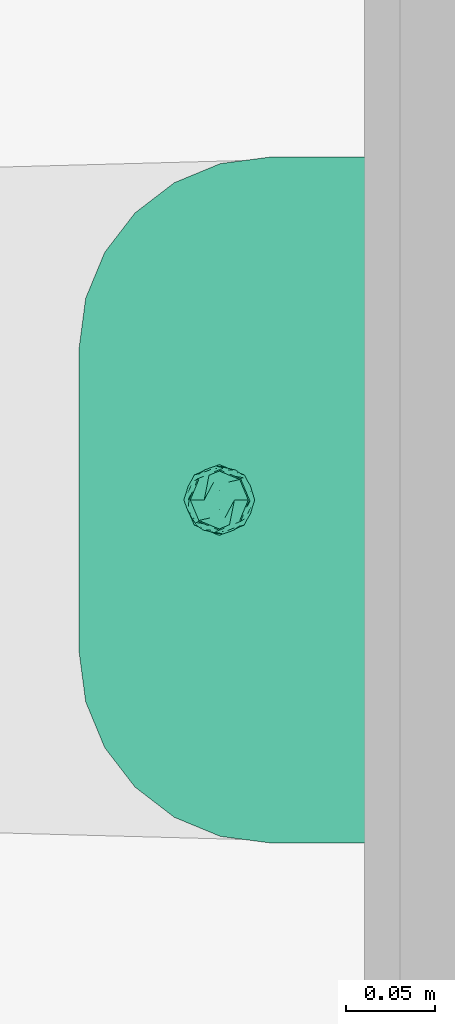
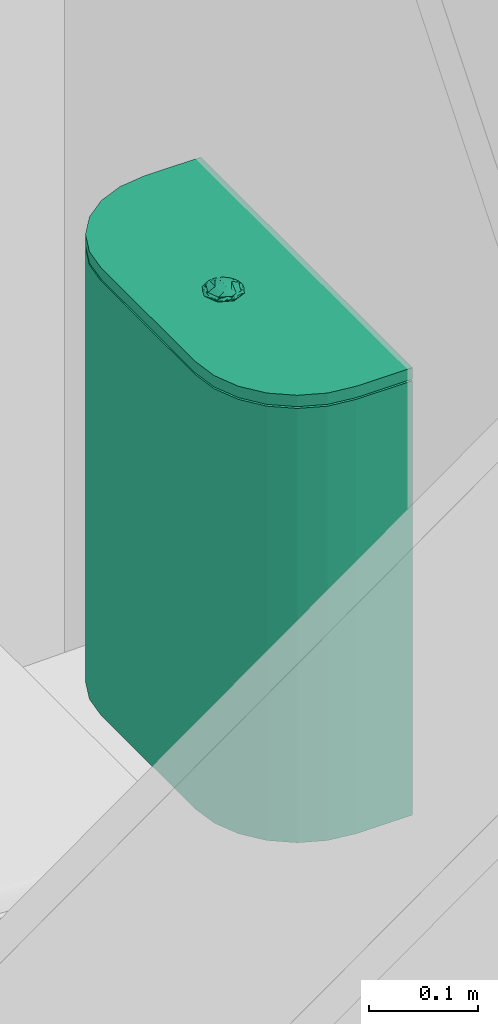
# One storey, part 68 of 75: 1 flow terminal.
"""IFC2X3 building model written with IfcOpenShell, lengths in metres."""

from ifc_helpers import new_model, entity, si_unit, converted_unit, derived_unit, direction, frame, origin, place, context, subcontext, project, spatial, faceted_brep, source, transform, mapped, material, material_list, type_object, type_shapes, element, save


model = new_model("IFC2X3")

# Units and contexts
model_context = context("Model", 3, precision=1e-05, world=origin(), true_north=direction((6.12303176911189e-17, 1.0)))
body_context = subcontext(model_context, "Body", "Model", "MODEL_VIEW")
ifc_project = project(units=[si_unit("LENGTHUNIT", "METRE"), si_unit("AREAUNIT", "SQUARE_METRE"), si_unit("VOLUMEUNIT", "CUBIC_METRE"), converted_unit("PLANEANGLEUNIT", "DEGREE", entity("IfcRatioMeasure", 0.0174532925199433), si_unit("PLANEANGLEUNIT", "RADIAN"), dimensions=[0, 0, 0, 0, 0, 0, 0]), si_unit("MASSUNIT", "GRAM", prefix="KILO"), derived_unit("MASSDENSITYUNIT", [(si_unit("MASSUNIT", "GRAM", prefix="KILO"), 1), (si_unit("LENGTHUNIT", "METRE"), -3)]), derived_unit("MOMENTOFINERTIAUNIT", [(si_unit("LENGTHUNIT", "METRE"), 4)]), si_unit("TIMEUNIT", "SECOND"), si_unit("FREQUENCYUNIT", "HERTZ"), si_unit("THERMODYNAMICTEMPERATUREUNIT", "DEGREE_CELSIUS"), derived_unit("THERMALTRANSMITTANCEUNIT", [(si_unit("MASSUNIT", "GRAM", prefix="KILO"), 1), (si_unit("THERMODYNAMICTEMPERATUREUNIT", "KELVIN"), -1), (si_unit("TIMEUNIT", "SECOND"), -3)]), derived_unit("VOLUMETRICFLOWRATEUNIT", [(si_unit("LENGTHUNIT", "METRE"), 3), (si_unit("TIMEUNIT", "SECOND"), -1)]), si_unit("ELECTRICCURRENTUNIT", "AMPERE"), si_unit("ELECTRICVOLTAGEUNIT", "VOLT"), si_unit("POWERUNIT", "WATT"), si_unit("FORCEUNIT", "NEWTON", prefix="KILO"), si_unit("ILLUMINANCEUNIT", "LUX"), si_unit("LUMINOUSFLUXUNIT", "LUMEN"), si_unit("LUMINOUSINTENSITYUNIT", "CANDELA"), derived_unit("USERDEFINED", [(si_unit("MASSUNIT", "GRAM", prefix="KILO"), -1), (si_unit("LENGTHUNIT", "METRE"), -2), (si_unit("TIMEUNIT", "SECOND"), 3), (si_unit("LUMINOUSFLUXUNIT", "LUMEN"), 1)]), derived_unit("LINEARVELOCITYUNIT", [(si_unit("LENGTHUNIT", "METRE"), 1), (si_unit("TIMEUNIT", "SECOND"), -1)]), si_unit("PRESSUREUNIT", "PASCAL"), derived_unit("USERDEFINED", [(si_unit("LENGTHUNIT", "METRE"), -2), (si_unit("MASSUNIT", "GRAM", prefix="KILO"), 1), (si_unit("TIMEUNIT", "SECOND"), -2)]), derived_unit("LINEARFORCEUNIT", [(si_unit("MASSUNIT", "GRAM", prefix="KILO"), 1), (si_unit("LENGTHUNIT", "METRE"), 1), (si_unit("TIMEUNIT", "SECOND"), -2), (si_unit("LENGTHUNIT", "METRE"), -1)]), derived_unit("PLANARFORCEUNIT", [(si_unit("MASSUNIT", "GRAM", prefix="KILO"), 1), (si_unit("LENGTHUNIT", "METRE"), 1), (si_unit("TIMEUNIT", "SECOND"), -2), (si_unit("LENGTHUNIT", "METRE"), -2)])], contexts=[model_context])

# Site, building, storey
site_placement = place(None, origin())
site = spatial("IfcSite", under=ifc_project, at=site_placement, Name="Superficie", CompositionType="ELEMENT")
building_placement = place(site_placement, origin())
building = spatial("IfcBuilding", under=site, at=building_placement, Name="Telegestiones", CompositionType="ELEMENT")
storey_placement = place(building_placement, origin())
storey = spatial("IfcBuildingStorey", under=building, at=storey_placement, Name="Nivel 0_NPT", CompositionType="ELEMENT", Elevation=0.0)

# Flow terminal
ifc_material_1 = material(Name="Metal - Ferrum - Cromado")
ifc_material_2 = material(Name="Ceramica - Ferrum - Blanco Satinado")
ifc_material_list_1 = material_list([ifc_material_1, ifc_material_2])
ifc_material_list_2 = material_list([ifc_material_2, ifc_material_1])
distribution_element_type = type_object("IfcDistributionElementType", Name="Inodoro-Ferrum-Marina-Deposito:Deposito", material=ifc_material_list_2)
shared_shape = source(origin(), body_context, "Body", "Brep", [
    faceted_brep([(0.0, -0.0879347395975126, 0.501461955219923), (0.0, -0.0708831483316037, 0.501461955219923), (-0.00479660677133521, -0.0728699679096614, 0.501461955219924), (-0.00842695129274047, -0.0743737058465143, 0.501461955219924), (-0.0120572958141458, -0.0758774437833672, 0.501461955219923), (-0.0133058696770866, -0.0788917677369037, 0.501461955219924), (-0.0145544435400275, -0.0819060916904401, 0.501461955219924), (-0.0158030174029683, -0.0849204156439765, 0.501461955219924), (-0.0170515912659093, -0.087934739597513, 0.501461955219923), (-0.0158030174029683, -0.0909490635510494, 0.501461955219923), (-0.0145544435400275, -0.0939633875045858, 0.501461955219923), (-0.0133058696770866, -0.0969777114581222, 0.501461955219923), (-0.0120572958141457, -0.0999920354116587, 0.501461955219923), (-0.00842695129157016, -0.101495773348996, 0.501461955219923), (-0.00479660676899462, -0.102999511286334, 0.501461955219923), (0.0, -0.104986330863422, 0.501461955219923), (0.0047966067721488, -0.102999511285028, 0.501461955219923), (0.00479660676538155, -0.0728699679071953, 0.501461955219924), (0.00842695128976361, -0.0743737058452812, 0.501461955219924), (0.0120572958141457, -0.0758774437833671, 0.501461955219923), (0.0133058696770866, -0.0788917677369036, 0.501461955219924), (0.0145544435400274, -0.08190609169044, 0.501461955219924), (0.0158030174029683, -0.0849204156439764, 0.501461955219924), (0.0170515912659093, -0.0879347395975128, 0.501461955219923), (0.00842695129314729, -0.101495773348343, 0.501461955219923), (0.0120572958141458, -0.0999920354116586, 0.501461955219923), (0.0133058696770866, -0.0969777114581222, 0.501461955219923), (0.0145544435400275, -0.0939633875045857, 0.501461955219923), (0.0158030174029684, -0.0909490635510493, 0.501461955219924), (0.0, -0.0879347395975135, 0.499004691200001), (-0.0141421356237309, -0.0737926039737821, 0.499004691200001), (-0.00988406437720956, -0.0720288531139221, 0.499004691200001), (-0.00562599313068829, -0.070265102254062, 0.499004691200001), (0.0, -0.067934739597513, 0.499004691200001), (0.00562599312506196, -0.0702651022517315, 0.499004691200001), (-0.0156066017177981, -0.0773281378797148, 0.499004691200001), (-0.0170710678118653, -0.0808636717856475, 0.499004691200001), (-0.0185355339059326, -0.0843992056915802, 0.499004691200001), (-0.0199999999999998, -0.0879347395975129, 0.499004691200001), (-0.0185355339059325, -0.0914702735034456, 0.499004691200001), (-0.0170710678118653, -0.0950058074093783, 0.499004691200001), (-0.015606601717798, -0.098541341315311, 0.499004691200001), (-0.0141421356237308, -0.102076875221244, 0.499004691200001), (-0.00988406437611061, -0.103840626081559, 0.499004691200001), (-0.00562599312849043, -0.105604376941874, 0.499004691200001), (0.0, -0.107934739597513, 0.499004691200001), (0.00988406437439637, -0.0720288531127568, 0.499004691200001), (0.0141421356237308, -0.073792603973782, 0.499004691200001), (0.015606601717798, -0.0773281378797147, 0.499004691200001), (0.0170710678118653, -0.0808636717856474, 0.499004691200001), (0.0185355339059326, -0.0843992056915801, 0.499004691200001), (0.0199999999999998, -0.0879347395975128, 0.499004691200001), (0.0185355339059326, -0.0914702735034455, 0.499004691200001), (0.00562599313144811, -0.105604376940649, 0.499004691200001), (0.0098840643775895, -0.103840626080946, 0.499004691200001), (0.0141421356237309, -0.102076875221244, 0.499004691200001), (0.0170710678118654, -0.0950058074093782, 0.499004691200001), (0.0156066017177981, -0.0985413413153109, 0.499004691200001), (-0.0106825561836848, -0.102196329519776, 0.500884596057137), (-0.013204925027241, -0.0999578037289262, 0.500853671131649), (-0.0124759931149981, -0.101684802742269, 0.500282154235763), (-0.0157937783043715, -0.0963766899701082, 0.500814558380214), (-0.0148252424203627, -0.0991118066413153, 0.50028215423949), (-0.00401935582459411, -0.0691551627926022, 0.499734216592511), (-0.00968739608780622, -0.10377358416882, 0.500282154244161), (-0.00437721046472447, -0.10555508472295, 0.500618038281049), (-0.00752313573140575, -0.104092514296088, 0.5008810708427), (0.0, -0.105664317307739, 0.500933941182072), (-0.0172182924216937, -0.095648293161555, 0.500028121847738), (0.0, -0.106501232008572, 0.500282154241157), (-0.017062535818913, -0.0930831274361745, 0.500881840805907), (-0.0177493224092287, -0.0896123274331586, 0.500877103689), (-0.0153450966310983, -0.0776814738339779, 0.500374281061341), (-0.0170166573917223, -0.0807405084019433, 0.500358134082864), (-0.00496458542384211, -0.0703027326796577, 0.500487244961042), (-0.00805501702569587, -0.0704028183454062, 0.499655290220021), (-0.00968739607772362, -0.0720958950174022, 0.500282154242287), (-0.00372687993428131, -0.106716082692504, 0.49978476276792), (0.0, -0.0702051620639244, 0.500933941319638), (0.0, -0.0693682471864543, 0.500282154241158), (-0.0111886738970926, -0.072216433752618, 0.499655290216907), (-0.0119381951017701, -0.103091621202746, 0.499655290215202), (-0.00762284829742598, -0.105588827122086, 0.499712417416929), (-0.0181504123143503, -0.0840261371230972, 0.500282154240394), (-0.018565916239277, -0.0877884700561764, 0.50028215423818), (-0.0177055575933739, -0.0861570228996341, 0.500903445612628), (-0.0182097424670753, -0.091556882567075, 0.500282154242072), (-0.0192009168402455, -0.089825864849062, 0.499655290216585), (-0.0170346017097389, -0.082767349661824, 0.500898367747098), (-0.0126874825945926, -0.0746691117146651, 0.50045576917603), (-0.0169081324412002, -0.0787166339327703, 0.499687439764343), (-0.0145243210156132, -0.0753984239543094, 0.499750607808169), (0.0106825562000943, -0.0736731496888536, 0.500884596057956), (0.0132049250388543, -0.075911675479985, 0.500853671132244), (0.0124759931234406, -0.0741846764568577, 0.500282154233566), (0.0157937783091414, -0.0794927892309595, 0.500814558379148), (0.0148252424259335, -0.0767576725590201, 0.500282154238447), (0.00509887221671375, -0.106043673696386, 0.50007430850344), (0.00968739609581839, -0.0720958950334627, 0.500282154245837), (0.00437721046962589, -0.0703143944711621, 0.500618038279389), (0.00752313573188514, -0.0717769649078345, 0.500881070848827), (0.0172182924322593, -0.0802211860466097, 0.50002812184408), (0.00968739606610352, -0.103773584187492, 0.500282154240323), (0.012687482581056, -0.101200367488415, 0.50045576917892), (0.0103332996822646, -0.102451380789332, 0.500884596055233), (0.0170625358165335, -0.0827863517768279, 0.500881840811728), (0.0177493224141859, -0.0862571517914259, 0.500877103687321), (0.0170166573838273, -0.0951289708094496, 0.500358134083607), (0.018150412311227, -0.0918433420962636, 0.500282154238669), (0.0170346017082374, -0.0931021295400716, 0.500898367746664), (0.014524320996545, -0.100471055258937, 0.4997506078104), (0.00743921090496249, -0.104126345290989, 0.500884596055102), (0.00372687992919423, -0.0691533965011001, 0.499784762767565), (0.0037488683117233, -0.105450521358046, 0.500811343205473), (0.0119381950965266, -0.0727778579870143, 0.499655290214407), (0.00762284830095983, -0.0702806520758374, 0.499712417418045), (0.0185659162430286, -0.0880810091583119, 0.500282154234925), (0.0177055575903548, -0.0897124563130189, 0.500903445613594), (0.0182097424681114, -0.0843125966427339, 0.500282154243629), (0.0192009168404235, -0.0860436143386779, 0.499655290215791), (0.0153450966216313, -0.0981880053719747, 0.500374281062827), (0.0169081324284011, -0.0971528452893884, 0.499687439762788)], [[[0, 1, 2]], [[0, 2, 3]], [[0, 3, 4]], [[0, 4, 5]], [[0, 5, 6]], [[0, 6, 7]], [[0, 7, 8]], [[0, 8, 9]], [[0, 9, 10]], [[0, 10, 11]], [[0, 11, 12]], [[0, 12, 13]], [[0, 13, 14]], [[0, 14, 15]], [[0, 15, 16]], [[0, 17, 1]], [[0, 18, 17]], [[0, 19, 18]], [[0, 20, 19]], [[0, 21, 20]], [[0, 22, 21]], [[0, 23, 22]], [[0, 16, 24]], [[0, 24, 25]], [[0, 25, 26]], [[0, 26, 27]], [[0, 27, 28]], [[0, 28, 23]], [[29, 30, 31]], [[29, 31, 32]], [[29, 32, 33]], [[29, 33, 34]], [[29, 35, 30]], [[29, 36, 35]], [[29, 37, 36]], [[29, 38, 37]], [[29, 39, 38]], [[29, 40, 39]], [[29, 41, 40]], [[29, 42, 41]], [[29, 43, 42]], [[29, 44, 43]], [[29, 45, 44]], [[29, 34, 46]], [[29, 46, 47]], [[29, 47, 48]], [[29, 48, 49]], [[29, 49, 50]], [[29, 50, 51]], [[29, 51, 52]], [[29, 53, 45]], [[29, 54, 53]], [[29, 55, 54]], [[29, 52, 56]], [[29, 56, 57]], [[29, 57, 55]], [[58, 59, 60]], [[59, 11, 61]], [[61, 62, 59]], [[33, 32, 63]], [[64, 65, 66]], [[15, 14, 67]], [[62, 68, 41]], [[69, 67, 65]], [[70, 9, 71]], [[68, 62, 61]], [[6, 72, 73]], [[74, 75, 76]], [[32, 75, 63]], [[31, 75, 32]], [[69, 65, 77]], [[74, 1, 78, 79]], [[74, 76, 3]], [[80, 76, 75]], [[81, 82, 64]], [[83, 37, 84]], [[71, 85, 84]], [[45, 69, 77]], [[68, 39, 40, 41]], [[68, 86, 87]], [[85, 7, 88]], [[88, 73, 83]], [[31, 80, 75]], [[89, 72, 5]], [[37, 38, 87]], [[36, 83, 90]], [[65, 67, 14]], [[13, 12, 58]], [[77, 82, 44]], [[82, 65, 64]], [[45, 77, 44]], [[65, 82, 77]], [[82, 81, 43]], [[43, 81, 42]], [[43, 44, 82]], [[60, 81, 64]], [[58, 64, 66]], [[62, 81, 60]], [[66, 14, 13]], [[60, 64, 58]], [[59, 58, 12]], [[14, 66, 65]], [[13, 58, 66]], [[59, 12, 11]], [[60, 59, 62]], [[11, 10, 61]], [[86, 70, 71]], [[61, 70, 68]], [[87, 38, 39]], [[42, 81, 62]], [[68, 87, 39]], [[42, 62, 41]], [[84, 87, 86]], [[71, 84, 86]], [[83, 36, 37]], [[73, 88, 6]], [[6, 88, 7]], [[85, 83, 84]], [[68, 70, 86]], [[8, 7, 85]], [[61, 10, 70]], [[9, 8, 71]], [[85, 88, 83]], [[8, 85, 71]], [[70, 10, 9]], [[73, 72, 90]], [[91, 90, 72]], [[91, 35, 90]], [[89, 91, 72]], [[76, 80, 89]], [[72, 6, 5]], [[87, 84, 37]], [[35, 91, 30]], [[91, 80, 30]], [[35, 36, 90]], [[75, 74, 63]], [[89, 3, 76]], [[1, 74, 3, 2]], [[74, 79, 63]], [[33, 63, 79]], [[30, 80, 31]], [[89, 80, 91]], [[3, 89, 4]], [[83, 73, 90]], [[4, 89, 5]], [[92, 93, 94]], [[93, 20, 95]], [[95, 96, 93]], [[45, 53, 54, 97]], [[98, 99, 100]], [[1, 17, 78]], [[96, 101, 48]], [[102, 103, 104]], [[105, 22, 106]], [[101, 96, 95]], [[107, 108, 109]], [[102, 54, 110]], [[104, 111, 102]], [[102, 111, 97]], [[79, 99, 112]], [[113, 15, 67, 69]], [[25, 24, 104]], [[79, 78, 99]], [[114, 115, 98]], [[116, 108, 52]], [[106, 117, 116]], [[33, 79, 112]], [[101, 50, 49, 48]], [[101, 118, 119]], [[117, 28, 109]], [[120, 27, 26]], [[110, 103, 102]], [[27, 120, 107]], [[52, 51, 119]], [[56, 108, 121]], [[99, 78, 17]], [[18, 19, 92]], [[112, 115, 34]], [[115, 99, 98]], [[33, 112, 34]], [[99, 115, 112]], [[115, 114, 46]], [[46, 114, 47]], [[46, 34, 115]], [[94, 114, 98]], [[92, 98, 100]], [[96, 114, 94]], [[100, 17, 18]], [[94, 98, 92]], [[93, 92, 19]], [[17, 100, 99]], [[18, 92, 100]], [[93, 19, 20]], [[94, 93, 96]], [[20, 21, 95]], [[118, 105, 106]], [[95, 105, 101]], [[119, 51, 50]], [[47, 114, 96]], [[101, 119, 50]], [[47, 96, 48]], [[116, 119, 118]], [[106, 116, 118]], [[108, 56, 52]], [[107, 109, 27]], [[27, 109, 28]], [[117, 108, 116]], [[101, 105, 118]], [[23, 28, 117]], [[95, 21, 105]], [[22, 23, 106]], [[117, 109, 108]], [[23, 117, 106]], [[105, 21, 22]], [[103, 26, 25]], [[107, 120, 121]], [[110, 121, 120]], [[110, 57, 121]], [[103, 110, 120]], [[97, 54, 102]], [[103, 120, 26]], [[24, 111, 104]], [[97, 111, 113]], [[111, 24, 16]], [[16, 113, 111]], [[45, 97, 69]], [[119, 116, 52]], [[15, 113, 16]], [[69, 97, 113]], [[57, 110, 55]], [[57, 56, 121]], [[25, 104, 103]], [[55, 110, 54]], [[108, 107, 121]]]),
    faceted_brep([(0.0, -0.0879347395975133, 0.501961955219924), (-0.0115552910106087, -0.0763794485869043, 0.501961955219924), (-0.00652729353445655, -0.0742967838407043, 0.501961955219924), (-0.0032636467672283, -0.0729449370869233, 0.501961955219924), (0.0, -0.0715930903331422, 0.501961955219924), (0.00652729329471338, -0.0742967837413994, 0.501961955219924), (-0.0139484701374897, -0.0821570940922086, 0.501961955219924), (-0.0163416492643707, -0.087934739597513, 0.501961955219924), (-0.0139484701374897, -0.0937123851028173, 0.501961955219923), (-0.0115552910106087, -0.0994900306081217, 0.501961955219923), (-0.00652729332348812, -0.101572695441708, 0.501961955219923), (0.0, -0.104276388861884, 0.501961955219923), (0.0115552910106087, -0.0763794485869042, 0.501961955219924), (0.0139484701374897, -0.0821570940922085, 0.501961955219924), (0.0163416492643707, -0.0879347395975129, 0.501961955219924), (0.0139484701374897, -0.0937123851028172, 0.501961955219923), (0.00326364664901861, -0.102924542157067, 0.501961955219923), (0.00652729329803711, -0.10157269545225, 0.501961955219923), (0.0115552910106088, -0.0994900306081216, 0.501961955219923), (0.0, -0.0964857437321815, 0.505715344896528), (0.0, -0.0922102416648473, 0.506360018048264), (-0.0100644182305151, -0.0911023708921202, 0.505017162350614), (-0.00557978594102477, -0.0879347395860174, 0.506462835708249), (-0.0101494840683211, -0.0826250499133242, 0.504646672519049), (0.0, -0.102536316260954, 0.502800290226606), (0.0, -0.100796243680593, 0.503638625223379), (0.0, -0.0986409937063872, 0.504676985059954), (0.0, -0.0836592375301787, 0.506360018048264), (0.0, -0.0793837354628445, 0.505715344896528), (0.0, -0.0772284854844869, 0.504676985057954), (0.0, -0.0750732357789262, 0.503638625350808), (0.0, -0.0733331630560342, 0.502800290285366), (0.0, -0.087934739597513, 0.5070046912), (0.01006441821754, -0.0847671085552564, 0.50501716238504), (0.00557978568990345, -0.0879347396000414, 0.506462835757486), (0.0101494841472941, -0.0932444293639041, 0.504646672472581)], [[[0, 1, 2]], [[0, 2, 3]], [[0, 3, 4]], [[0, 4, 5]], [[0, 6, 1]], [[0, 7, 6]], [[0, 8, 7]], [[0, 9, 8]], [[0, 10, 9]], [[0, 11, 10]], [[0, 5, 12]], [[0, 12, 13]], [[0, 13, 14]], [[0, 14, 15]], [[0, 16, 11]], [[0, 17, 16]], [[0, 18, 17]], [[0, 15, 18]], [[19, 20, 21]], [[19, 8, 9]], [[22, 23, 21]], [[10, 11, 24, 25, 26, 19, 9]], [[21, 8, 19]], [[27, 28, 23]], [[23, 1, 6, 7]], [[1, 23, 28]], [[23, 7, 21]], [[3, 2, 1, 28, 29, 30, 31, 4]], [[27, 22, 32]], [[7, 8, 21]], [[20, 32, 22]], [[23, 22, 27]], [[21, 20, 22]], [[28, 27, 33]], [[28, 13, 12]], [[34, 35, 33]], [[5, 4, 31, 30, 29, 28, 12]], [[33, 13, 28]], [[20, 19, 35]], [[35, 18, 15, 14]], [[18, 35, 19]], [[35, 14, 33]], [[24, 11, 16, 17, 18, 19, 26, 25]], [[20, 34, 32]], [[14, 13, 33]], [[27, 32, 34]], [[35, 34, 20]], [[33, 27, 34]]]),
    faceted_brep([(0.1935, -0.059548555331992, 0.4863750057), (0.189838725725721, -0.0873586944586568, 0.4863750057), (0.179104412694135, -0.113273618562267, 0.4863750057), (0.162028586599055, -0.135527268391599, 0.4863750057), (0.139774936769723, -0.152603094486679, 0.486375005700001), (0.113860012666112, -0.163337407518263, 0.486375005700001), (0.0860498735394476, -0.166998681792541, 0.486375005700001), (-0.0860498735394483, -0.166998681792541, 0.486375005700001), (-0.113860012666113, -0.163337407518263, 0.486375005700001), (-0.139774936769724, -0.152603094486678, 0.486375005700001), (-0.162028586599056, -0.135527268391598, 0.4863750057), (-0.179104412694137, -0.113273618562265, 0.4863750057), (-0.189838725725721, -0.0873586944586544, 0.4863750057), (-0.1935, -0.0595485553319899, 0.4863750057), (-0.1935, 0.0, 0.4863750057), (0.1935, 0.0, 0.4863750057), (-0.1935, -0.0595485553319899, 0.499004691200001), (-0.189838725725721, -0.0873586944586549, 0.499004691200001), (-0.179104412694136, -0.113273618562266, 0.499004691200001), (-0.162028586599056, -0.135527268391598, 0.499004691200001), (-0.139774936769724, -0.152603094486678, 0.499004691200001), (-0.113860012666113, -0.163337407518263, 0.499004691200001), (-0.0860498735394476, -0.166998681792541, 0.499004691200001), (0.0860498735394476, -0.166998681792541, 0.499004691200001), (0.113860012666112, -0.163337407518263, 0.499004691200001), (0.139774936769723, -0.152603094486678, 0.499004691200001), (0.162028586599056, -0.135527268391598, 0.499004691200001), (0.179104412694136, -0.113273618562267, 0.499004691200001), (0.189838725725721, -0.0873586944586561, 0.499004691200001), (0.1935, -0.0595485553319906, 0.499004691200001), (0.1935, 0.0, 0.499004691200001), (-0.1935, 0.0, 0.499004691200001)], [[[0, 1, 2, 3, 4, 5, 6, 7, 8, 9, 10, 11, 12, 13, 14, 15]], [[16, 17, 18, 19, 20, 21, 22, 23, 24, 25, 26, 27, 28, 29, 30, 31]], [[16, 31, 14, 13]], [[16, 13, 12, 17]], [[17, 12, 11, 18]], [[18, 11, 10, 19]], [[8, 7, 22, 21]], [[9, 8, 21, 20]], [[19, 10, 9, 20]], [[23, 22, 7, 6]], [[23, 6, 5, 24]], [[24, 5, 4, 25]], [[25, 4, 3, 26]], [[27, 2, 1, 28]], [[28, 1, 0, 29]], [[26, 3, 2, 27]], [[30, 29, 0, 15]], [[31, 30, 15, 14]]]),
    faceted_brep([(-0.1935, -0.05954855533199, 0.484375), (-0.1935, 0.0, 0.484375), (-0.1935, 0.0, 0.0), (-0.1935, -0.0595485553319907, 0.0), (-0.189838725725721, -0.0873586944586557, 0.0), (-0.179104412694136, -0.113273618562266, 0.0), (-0.179104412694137, -0.113273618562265, 0.484375), (-0.189838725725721, -0.0873586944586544, 0.484375), (-0.162028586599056, -0.135527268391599, 0.0), (-0.162028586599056, -0.135527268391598, 0.484375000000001), (-0.113860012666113, -0.163337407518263, 0.484375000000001), (-0.139774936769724, -0.152603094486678, 0.484375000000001), (-0.139774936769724, -0.152603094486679, 0.0), (-0.113860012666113, -0.163337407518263, 0.0), (-0.0860498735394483, -0.166998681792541, 0.484375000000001), (-0.0860498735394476, -0.166998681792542, 0.0), (0.0860498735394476, -0.166998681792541, 0.484375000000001), (0.0860498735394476, -0.166998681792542, 0.0), (0.113860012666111, -0.163337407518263, 0.484375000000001), (0.113860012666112, -0.163337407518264, 0.0), (0.139774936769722, -0.152603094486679, 0.484375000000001), (0.139774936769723, -0.152603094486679, 0.0), (0.162028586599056, -0.135527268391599, 0.0), (0.162028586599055, -0.1355272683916, 0.484375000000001), (0.189838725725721, -0.0873586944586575, 0.484375), (0.179104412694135, -0.113273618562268, 0.484375), (0.179104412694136, -0.113273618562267, 0.0), (0.189838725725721, -0.0873586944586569, 0.0), (0.1935, -0.0595485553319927, 0.484375), (0.1935, -0.0595485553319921, 0.0), (0.1935, 0.0, 0.484375), (0.1935, 0.0, 0.0)], [[[0, 1, 2, 3]], [[4, 5, 6, 7]], [[3, 4, 7, 0]], [[5, 8, 9, 6]], [[10, 11, 12, 13]], [[14, 10, 13, 15]], [[8, 12, 11, 9]], [[16, 14, 15, 17]], [[18, 16, 17, 19]], [[20, 18, 19, 21]], [[21, 22, 23, 20]], [[24, 25, 26, 27]], [[28, 24, 27, 29]], [[22, 26, 25, 23]], [[30, 28, 29, 31]], [[1, 30, 31, 2]], [[20, 23, 25, 24, 28, 30, 1, 0, 7, 6, 9, 11, 10, 14, 16, 18]], [[13, 12, 8, 5, 4, 3, 2, 31, 29, 27, 26, 22, 21, 19, 17, 15]]]),
])
type_shapes(distribution_element_type, [shared_shape])
flow_terminal_placement = place(storey_placement, frame((5.8502897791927, 8.17210722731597, 0.437884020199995), z_axis=(0.0, 0.0, 1.0), x_axis=(0.0, -1.0, 0.0)))
element("IfcFlowTerminal", 1, at=flow_terminal_placement, inside=storey, type_object=distribution_element_type, material=ifc_material_list_1, Name="Inodoro-Ferrum-Marina-Deposito:Deposito", ObjectType="Inodoro-Ferrum-Marina-Deposito:Deposito", context=body_context, shape_type="MappedRepresentation", body=[
    mapped(shared_shape, transform((0.0, 0.0, 0.0), scale=1.0)),
])

save(model, "model.ifc")
